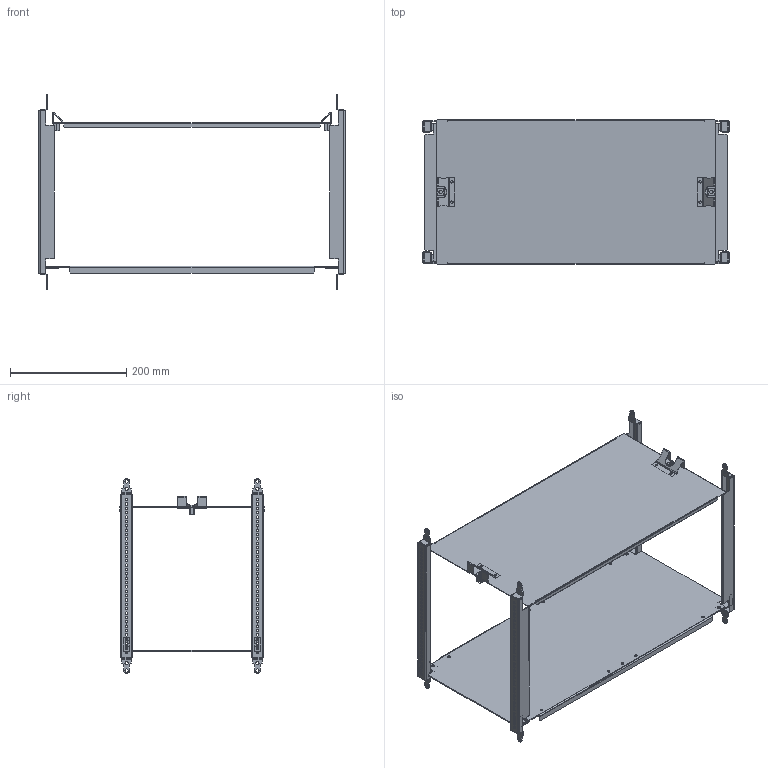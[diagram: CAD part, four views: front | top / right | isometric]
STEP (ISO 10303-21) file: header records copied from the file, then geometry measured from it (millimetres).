
FILE_DESCRIPTION(('CAx-IF Rec.Pracs.---Model Styling and Organization---1.2---2011-12-15','CAx-IF Rec.Pracs.---Geometric and Assembly Validation Properties---4.1---2014-06-16','CAx-IF Rec.Pracs.---PMI Polyline Presentation---2.0---2013-05-24'),'2;1');
FILE_NAME('R5PKIB0625.stp','2021-05-05T13:51:16+03:00',(''),(''),'STEP Interface 4.4 by CT CoreTechnologie','3D_Evolution4.4 by CT CoreTechnologie','');
FILE_SCHEMA(('AUTOMOTIVE_DESIGN { 1 0 10303 214 1 1 1 1 }'));
Length unit declared in the file: millimetre
Products named in the file (12): R5PKIB0625; RB.0348.00.00.0_-00; 294-9118.00-00050(1); 294-9118.00-00050(2); RB.0376.00.00.0_-00; 294-9118.00-00050(3); RB.0516.00.00.0 ÑÁ_-06; RB.0516.00.01.0_-06; RB.0392.00.02.0_ª«¨­ç(1); RB.0392.00.02.0_ª«¨­ç(2); RB.0329.00.00.0_-00; RB.0586.00.00.0_-04
Assembly tree (19 placements, depth 3):
  R5PKIB0625
    RB.0348.00.00.0_-00  x4
    294-9118.00-00050(1)
      294-9118.00-00050(2)
      RB.0376.00.00.0_-00
    294-9118.00-00050(3)
      RB.0376.00.00.0_-00
      294-9118.00-00050(2)
    RB.0516.00.00.0 ÑÁ_-06
      RB.0516.00.01.0_-06
      RB.0392.00.02.0_ª«¨­ç(1)
      RB.0392.00.02.0_ª«¨­ç(2)
    RB.0329.00.00.0_-00  x4
    RB.0586.00.00.0_-04
Bounding box: 526 x 248 x 335 mm (x, y, z)
Surface area: 665057.3 mm2 (no closed solid volume)
Topology: 0 solids, 48 shells, 1108 faces, 2930 edges, 1916 vertices
Faces by surface type: cylinder 540, plane 536, bspline 32
Entity records: 15978 total; most frequent: CARTESIAN_POINT 2873, DIRECTION 2621, ORIENTED_EDGE 2534, EDGE_CURVE 1267, VECTOR 881, LINE 881, AXIS2_PLACEMENT_3D 870, VERTEX_POINT 830
